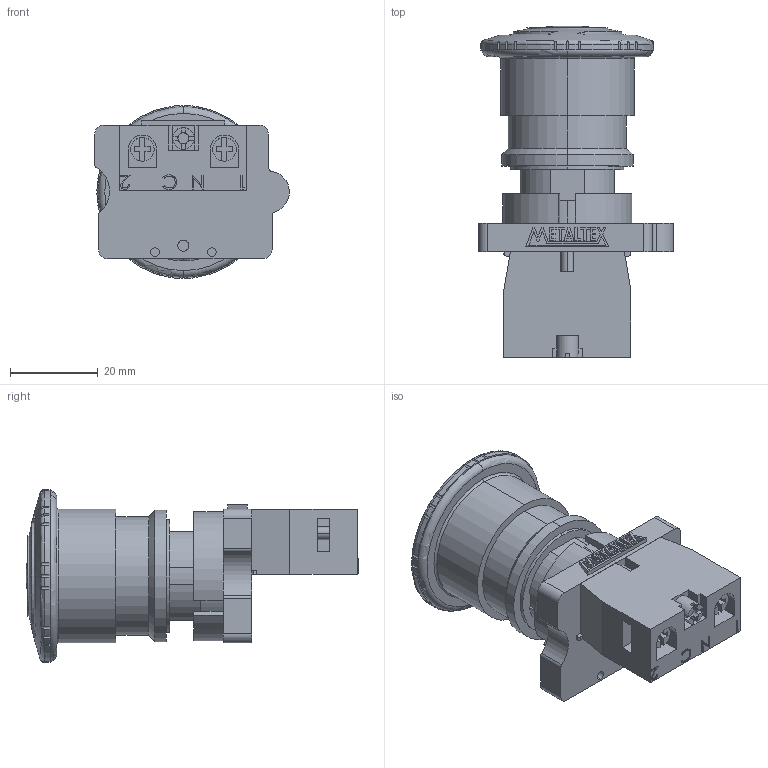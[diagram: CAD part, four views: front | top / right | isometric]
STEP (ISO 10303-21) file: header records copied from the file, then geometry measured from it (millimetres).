
FILE_DESCRIPTION (( 'STEP AP203' ), '1' );
FILE_NAME ('P20AKR-R-1B.STEP', '2018-01-17T13:44:30', ( '' ), ( '' ), 'SwSTEP 2.0', 'SolidWorks 2012', '' );
FILE_SCHEMA (( 'CONFIG_CONTROL_DESIGN' ));
Length unit declared in the file: millimetre
Products named in the file (4): P20AKR; P20AKR-R-1B; METALTEX 18,98; M20-1B
Assembly tree (3 placements, depth 2):
  P20AKR-R-1B
    P20AKR
    M20-1B
    METALTEX 18,98
Bounding box: 44.44 x 75.85 x 39.5 mm (x, y, z)
Volume: 47173.4 mm3; surface area: 13839.3 mm2
Topology: 9 solids, 9 shells, 458 faces, 1200 edges, 785 vertices
Faces by surface type: plane 284, cylinder 139, bspline 15, torus 10, sphere 8, cone 2
Entity records: 15854 total; most frequent: CARTESIAN_POINT 3956, DIRECTION 2410, ORIENTED_EDGE 2400, EDGE_CURVE 1200, AXIS2_PLACEMENT_3D 827, VERTEX_POINT 785, VECTOR 756, LINE 756
